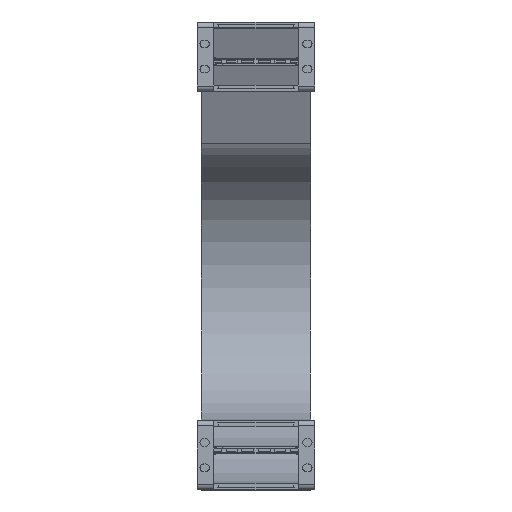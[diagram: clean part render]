
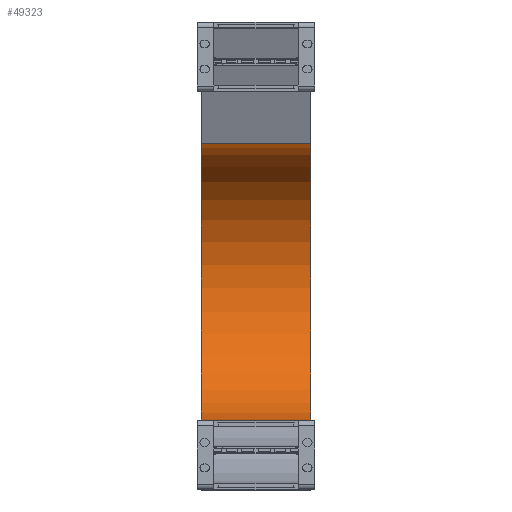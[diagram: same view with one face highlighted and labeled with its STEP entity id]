
A CAD part, top view. The second image highlights one B-rep face of the part: STEP entity #49323.
In plain terms, the highlighted cylindrical face has radius 82.5 mm (diameter 165 mm), a partial arc.
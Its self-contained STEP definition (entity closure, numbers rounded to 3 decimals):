
#48475=DIRECTION('',(-1.,0.,0.));
#48476=VECTOR('',#48475,65.);
#48477=CARTESIAN_POINT('',(32.5,41.,-400.));
#48478=LINE('',#48477,#48476);
#48489=DIRECTION('',(-1.,0.,0.));
#48490=VECTOR('',#48489,65.);
#48491=CARTESIAN_POINT('',(32.5,205.689,-407.16));
#48492=LINE('',#48491,#48490);
#48496=CARTESIAN_POINT('',(32.5,123.5,-400.));
#48497=DIRECTION('',(-1.,0.,0.));
#48498=DIRECTION('',(0.,0.996,-0.087));
#48499=AXIS2_PLACEMENT_3D('',#48496,#48497,#48498);
#48575=CARTESIAN_POINT('',(-32.5,123.5,-400.));
#48576=DIRECTION('',(-1.,0.,0.));
#48577=DIRECTION('',(0.,0.996,-0.087));
#48578=AXIS2_PLACEMENT_3D('',#48575,#48576,#48577);
#48697=CARTESIAN_POINT('',(32.5,205.689,-407.16));
#48698=CARTESIAN_POINT('',(-32.5,205.689,-407.16));
#48699=VERTEX_POINT('',#48697);
#48700=VERTEX_POINT('',#48698);
#48721=CARTESIAN_POINT('',(32.5,41.,-400.));
#48722=CARTESIAN_POINT('',(-32.5,41.,-400.));
#48723=VERTEX_POINT('',#48721);
#48724=VERTEX_POINT('',#48722);
#49309=CARTESIAN_POINT('',(1.,123.5,-400.));
#49310=DIRECTION('',(-1.,0.,0.));
#49311=DIRECTION('',(0.,-0.996,0.087));
#49312=AXIS2_PLACEMENT_3D('',#49309,#49310,#49311);
#49313=CYLINDRICAL_SURFACE('',#49312,82.5);
#49315=ORIENTED_EDGE('',*,*,#49314,.F.);
#49317=ORIENTED_EDGE('',*,*,#49316,.T.);
#49318=ORIENTED_EDGE('',*,*,#49292,.T.);
#49320=ORIENTED_EDGE('',*,*,#49319,.F.);
#49321=EDGE_LOOP('',(#49315,#49317,#49318,#49320));
#49322=FACE_OUTER_BOUND('',#49321,.F.);
#48500=CIRCLE('',#48499,82.5);
#48579=CIRCLE('',#48578,82.5);
#49292=EDGE_CURVE('',#48723,#48724,#48478,.T.);
#49314=EDGE_CURVE('',#48699,#48700,#48492,.T.);
#49316=EDGE_CURVE('',#48699,#48723,#48500,.T.);
#49319=EDGE_CURVE('',#48700,#48724,#48579,.T.);
#49323=ADVANCED_FACE('',(#49322),#49313,.F.);
